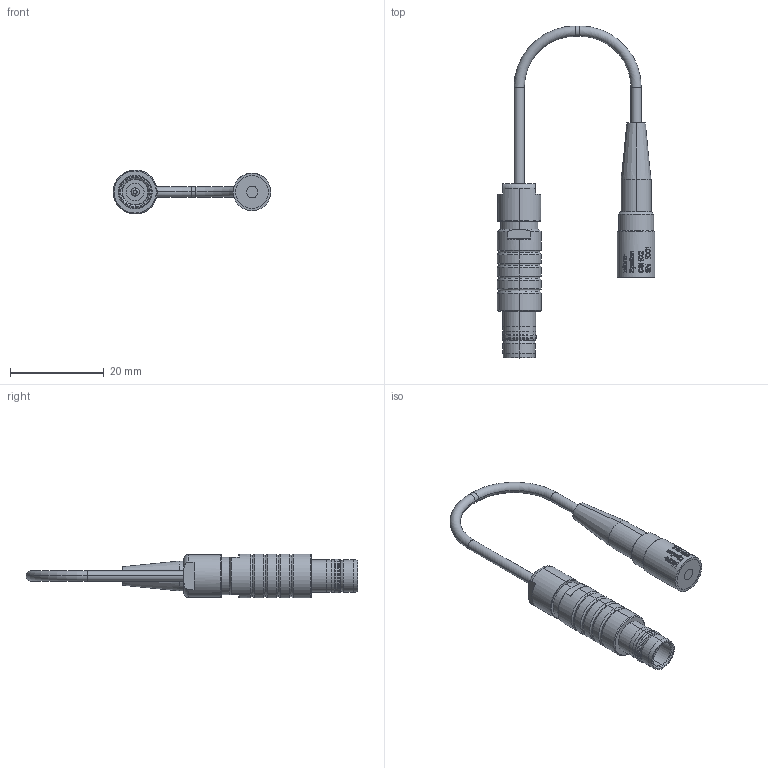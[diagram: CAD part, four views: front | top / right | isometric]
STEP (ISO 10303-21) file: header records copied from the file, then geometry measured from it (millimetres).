
FILE_DESCRIPTION((''),'2;1');
FILE_NAME('6610086-A_ASM','2009-07-29T',('11000065'),(''),'PRO/ENGINEER BY PARAMETRIC TECHNOLOGY CORPORATION, 2008490','PRO/ENGINEER BY PARAMETRIC TECHNOLOGY CORPORATION, 2008490','');
FILE_SCHEMA(('AUTOMOTIVE_DESIGN { 1 2 10303 214 0 1 1 1 }'));
Length unit declared in the file: millimetre
Products named in the file (3): 6610086-A; 0323139; 6610086-A_ASM
Assembly tree (2 placements, depth 2):
  6610086-A_ASM
    6610086-A
    0323139
Bounding box: 33.7 x 71 x 9.4 mm (x, y, z)
Volume: 3443 mm3; surface area: 2559 mm2
Topology: 2 solids, 2 shells, 804 faces, 2199 edges, 1442 vertices
Faces by surface type: plane 668, cylinder 76, cone 32, torus 26, bspline 2
Entity records: 32706 total; most frequent: CARTESIAN_POINT 6507, ORIENTED_EDGE 4398, DIRECTION 3211, PRESENTATION_STYLE_ASSIGNMENT 2260, STYLED_ITEM 2212, CURVE_STYLE 2199, EDGE_CURVE 2199, VERTEX_POINT 1442
